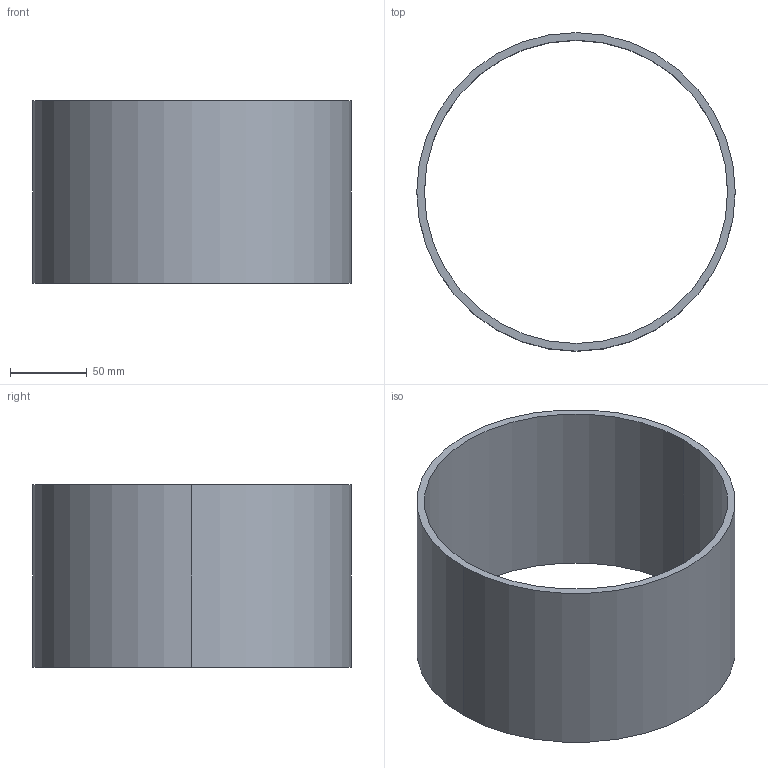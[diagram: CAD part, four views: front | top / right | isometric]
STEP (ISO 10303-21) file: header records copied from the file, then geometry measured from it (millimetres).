
FILE_DESCRIPTION(('CATIA V5 STEP Exchange'),'2;1');
FILE_NAME('C:\_Andres\UNIVERSIDAD\IQS\ASIGNATURAS\DAO\EXF\EXF-15161c\1original\Casals_Vilar_Ej07-tabla_v4.stp','2016-03-04T21:16:33+00:00',('none'),('none'),'CATIA Version 5 Release 20 SP 1 (IN-10)','CATIA V5 STEP AP203','none');
FILE_SCHEMA(('CONFIG_CONTROL_DESIGN'));
Length unit declared in the file: millimetre
Products named in the file (1): Casals_Vilar_Ej07-tabla_v4
Bounding box: 208 x 208 x 119 mm (x, y, z)
Volume: 379457.3 mm3; surface area: 158160.3 mm2
Topology: 1 solids, 1 shells, 6 faces, 13 edges, 10 vertices
Faces by surface type: cylinder 4, plane 2
Entity records: 208 total; most frequent: CARTESIAN_POINT 29, ORIENTED_EDGE 24, DIRECTION 23, AXIS2_PLACEMENT_3D 14, EDGE_CURVE 12, CIRCLE 8, EDGE_LOOP 8, VERTEX_POINT 8
